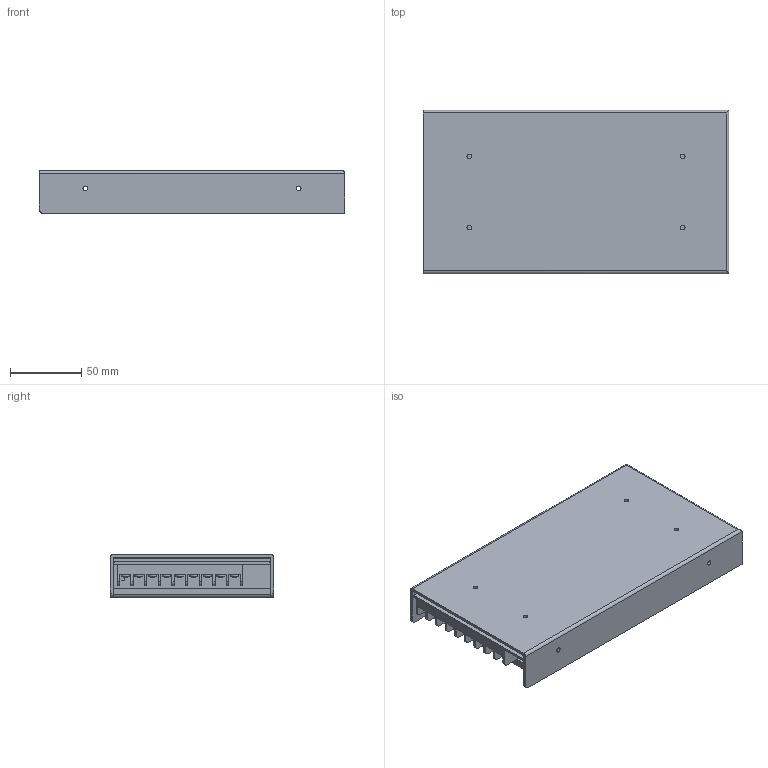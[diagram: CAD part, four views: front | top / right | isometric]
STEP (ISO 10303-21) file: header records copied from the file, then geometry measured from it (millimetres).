
FILE_DESCRIPTION(('STEP AP203'), '1');
FILE_NAME('Èñòî÷íèê ïèòàíèÿ èìïóëüñíûé LRS-350-48', '2022-09-23T11:05:03', ('q'), (''), 'ASCON STEP Converter 1.6', 'ASCON Math Kernel', '');
FILE_SCHEMA(('CONFIG_CONTROL_DESIGN'));
Length unit declared in the file: millimetre
Assembly tree (9 placements, depth 2):
  (unnamed)
    (unnamed)  x9
Bounding box: 215 x 115 x 30.01 mm (x, y, z)
Volume: 170117.9 mm3; surface area: 178784.1 mm2
Topology: 39 solids, 39 shells, 1430 faces, 3968 edges, 2635 vertices
Faces by surface type: cylinder 669, plane 662, bspline 72, torus 18, sphere 9
Full cylindrical faces by diameter (mm): 3 x9, 3.242 x8, 4 x13, 5.6 x9
Entity records: 49485 total; most frequent: CARTESIAN_POINT 7103, DIRECTION 7083, ORIENTED_EDGE 6732, EDGE_CURVE 3366, AXIS2_PLACEMENT_3D 2521, VERTEX_POINT 2259, LINE 2041, VECTOR 2041
